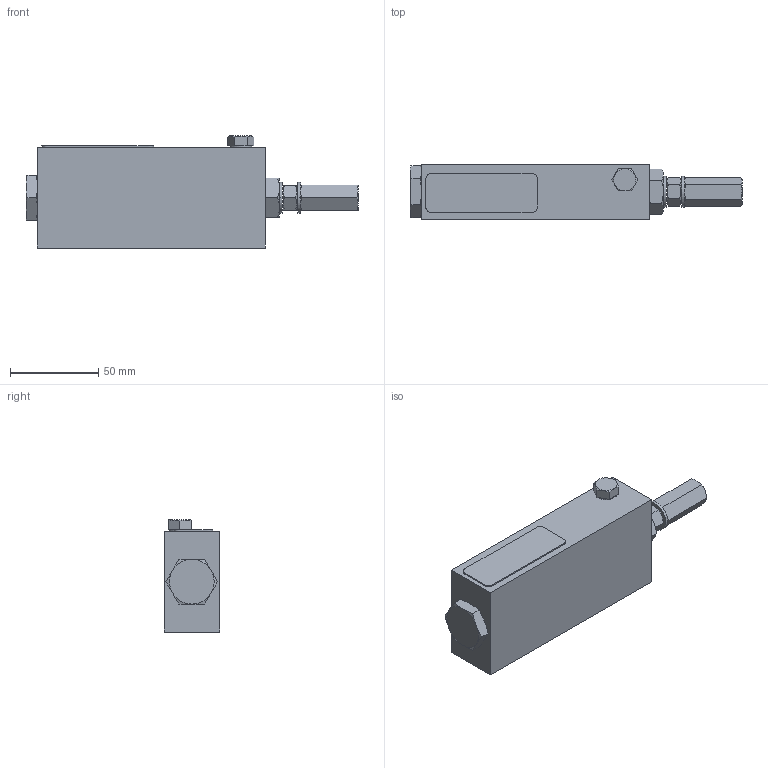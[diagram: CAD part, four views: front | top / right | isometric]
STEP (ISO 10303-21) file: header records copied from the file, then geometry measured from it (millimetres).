
FILE_DESCRIPTION((''),'2;1');
FILE_NAME('563305-EN-L_PRT','2022-02-14T14:32:18',('qtmwp1'),(''),'CREO PARAMETRIC BY PTC INC, 2021072','CREO PARAMETRIC BY PTC INC, 2021072','');
FILE_SCHEMA(('CONFIG_CONTROL_DESIGN'));
Length unit declared in the file: inch
Products named in the file (1): 563305-EN-L_PRT
Bounding box: 188.42 x 31.5 x 63.58 mm (x, y, z)
Surface area: 34081.8 mm2 (no closed solid volume)
Topology: 0 solids, 11 shells, 113 faces, 252 edges, 151 vertices
Faces by surface type: cone 51, plane 50, cylinder 10, torus 2
Entity records: 3510 total; most frequent: CARTESIAN_POINT 1170, ORIENTED_EDGE 461, DIRECTION 453, EDGE_CURVE 252, AXIS2_PLACEMENT_3D 190, VERTEX_POINT 151, EDGE_LOOP 113, FACE_OUTER_BOUND 113
